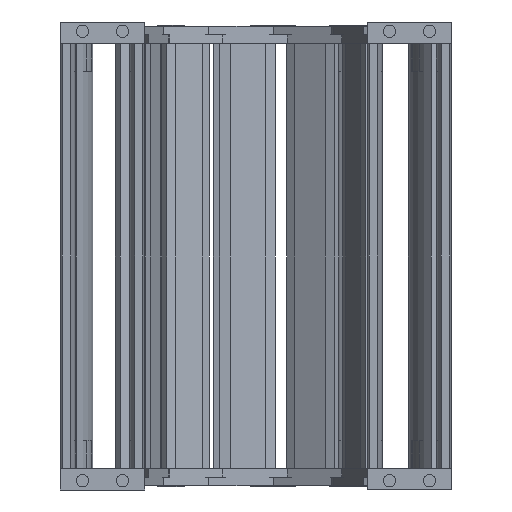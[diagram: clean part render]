
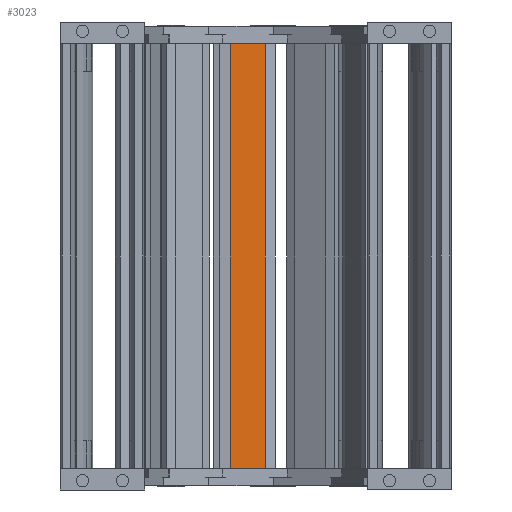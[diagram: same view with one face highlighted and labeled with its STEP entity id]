
A CAD part, left-side view. The second image highlights one B-rep face of the part: STEP entity #3023.
In plain terms, the highlighted planar face has unit normal (-0.996, -0.085, 0) as drawn and (0, 1, 0) by its records, which use the part's own axes.
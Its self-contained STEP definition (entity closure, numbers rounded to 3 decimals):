
#2766=DIRECTION('',(1.,0.,0.));
#2767=VECTOR('',#2766,23.);
#2768=CARTESIAN_POINT('',(-11.5,3.,263.));
#2769=LINE('',#2768,#2767);
#2815=DIRECTION('',(0.,0.,-1.));
#2816=VECTOR('',#2815,275.5);
#2817=CARTESIAN_POINT('',(11.5,3.,263.));
#2818=LINE('',#2817,#2816);
#2837=DIRECTION('',(-1.,0.,0.));
#2838=VECTOR('',#2837,23.);
#2839=CARTESIAN_POINT('',(11.5,3.,-12.5));
#2840=LINE('',#2839,#2838);
#2851=DIRECTION('',(0.,0.,-1.));
#2852=VECTOR('',#2851,275.5);
#2853=CARTESIAN_POINT('',(-11.5,3.,263.));
#2854=LINE('',#2853,#2852);
#2878=CARTESIAN_POINT('',(11.5,3.,263.));
#2879=VERTEX_POINT('',#2878);
#2882=CARTESIAN_POINT('',(-11.5,3.,263.));
#2883=VERTEX_POINT('',#2882);
#2890=CARTESIAN_POINT('',(11.5,3.,-12.5));
#2891=VERTEX_POINT('',#2890);
#2892=CARTESIAN_POINT('',(-11.5,3.,-12.5));
#2893=VERTEX_POINT('',#2892);
#3011=CARTESIAN_POINT('',(15.5,3.,213.));
#3012=DIRECTION('',(0.,1.,0.));
#3013=DIRECTION('',(-1.,0.,0.));
#3014=AXIS2_PLACEMENT_3D('',#3011,#3012,#3013);
#3015=PLANE('',#3014);
#3017=ORIENTED_EDGE('',*,*,#3016,.T.);
#3018=ORIENTED_EDGE('',*,*,#2995,.F.);
#3019=ORIENTED_EDGE('',*,*,#2975,.F.);
#3020=ORIENTED_EDGE('',*,*,#2907,.F.);
#3021=EDGE_LOOP('',(#3017,#3018,#3019,#3020));
#3022=FACE_OUTER_BOUND('',#3021,.F.);
#3023=ADVANCED_FACE('',(#3022),#3015,.T.);
#2907=EDGE_CURVE('',#2883,#2879,#2769,.T.);
#2975=EDGE_CURVE('',#2879,#2891,#2818,.T.);
#2995=EDGE_CURVE('',#2891,#2893,#2840,.T.);
#3016=EDGE_CURVE('',#2883,#2893,#2854,.T.);
